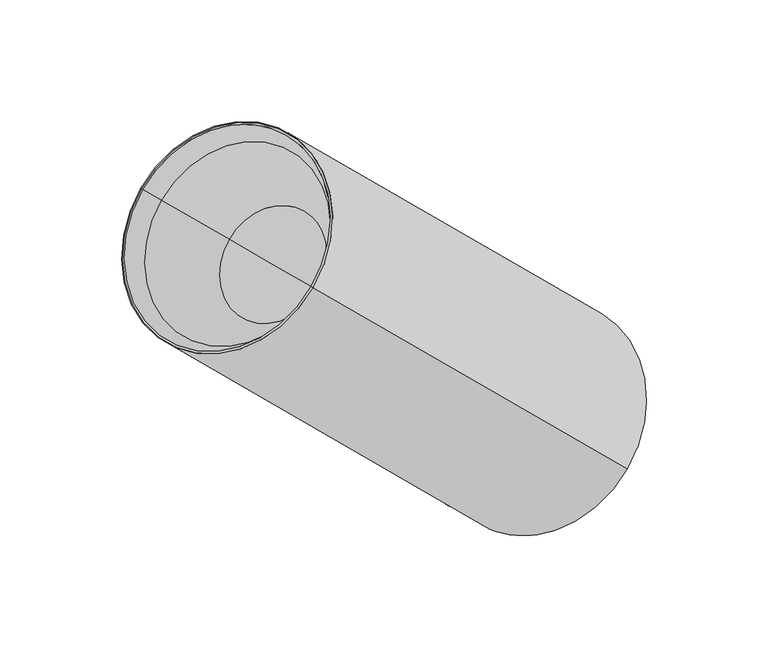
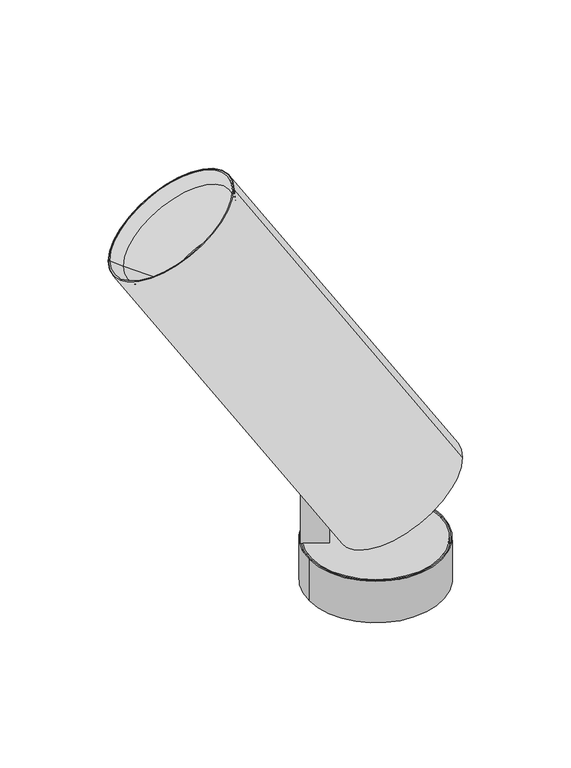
"""IFC4 building model written with IfcOpenShell, lengths in millimetres: light fixture geometry, PIPES C S : 1700 21W-830 28°."""

from ifc_helpers import new_model, si_unit, point, frame, frame_2d, origin, origin_with_axes, origin_2d, place, context, project, spatial, polyline, circle_curve, trimmed, segment, composite_curve, outline, extrude, source, transform, mapped, element, save
from ifc_brep_helpers import plane_surface, cylinder_surface, revolved_surface, advanced_brep


def light_fixture_be3f1eb5(model_context):
    return source(origin(), model_context, "Body", "SolidModel", [
        advanced_brep(
        [(-37.0110008, 12.1307069, 92.7464369), (-17.1417302, 0.6591782, 59.9803551), (-29.4347784, 7.756573, 50.0410565), (-23.970729, 4.6019026, 41.030384), (-25.4088467, 5.4322002, 39.8676227), (-50.7421667, 20.0583993, 81.644377), (-29.0110008, 25.9871134, 92.7464369), (-42.7421667, 33.9148058, 81.644377), (-17.4088467, 19.2886066, 39.8676227), (-15.970729, 18.458309, 41.030384), (-21.4347784, 21.6129794, 50.0410565), (-9.1417302, 14.5155847, 59.9803551), (-13.1417302, 7.5873815, 59.9803551), (-47.1991304, 27.2504306, 81.2749081), (-80.0754212, 46.231566, 309.835329), (-151.0160692, 87.1891682, 252.4776854), (-142.7624072, 82.4239142, 247.8194807), (-79.1075037, 45.6727386, 299.2863811), (49.0748376, -28.3333707, 96.8557975), (47.6560247, -27.5142187, 95.7086446), (42.1919753, -24.3595483, 104.7193171), (8.1404642, -4.6998992, 77.1876482), (-77.6188669, 44.8132737, 263.8214878), (-114.410303, 66.0548192, 234.0745072), (-96.0145849, 55.4340465, 248.9479975)],
        [
            (0, 1),
            (1, 2),
            (2, 3),
            (3, 4),
            (4, 5),
            (5, 0),
            (6, 7),
            (7, 8),
            (8, 9),
            (9, 10),
            (10, 11),
            (11, 6),
            (0, 6),
            (11, 12),
            (12, 1),
            (5, 13, circle_curve(frame((-11.7288064, 6.7716295, 109.9537299), z_axis=(0.49673176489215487, -0.2867882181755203, -0.8191520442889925), x_axis=(-0.7094064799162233, 0.4095760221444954, -0.5735764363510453)), 50.0)),
            (13, 7, circle_curve(frame((-11.7288064, 6.7716295, 109.9537299), z_axis=(0.49673176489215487, -0.2867882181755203, -0.8191520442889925), x_axis=(-0.7094064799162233, 0.4095760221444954, -0.5735764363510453)), 50.0)),
            (14, 15, circle_curve(frame((-115.5457452, 66.7103671, 281.1565072), z_axis=(-0.49673176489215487, 0.2867882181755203, 0.8191520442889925), x_axis=(-0.7094064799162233, 0.4095760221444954, -0.5735764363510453)), 50.0)),
            (15, 16),
            (16, 17, circle_curve(frame((-110.9349554, 64.0483264, 273.5529309), z_axis=(0.49673176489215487, -0.2867882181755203, -0.8191520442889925), x_axis=(-0.7094064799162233, 0.4095760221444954, -0.5735764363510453)), 44.8649013)),
            (17, 14),
            (15, 14, circle_curve(frame((-115.5457452, 66.7103671, 281.1565072), z_axis=(-0.49673176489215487, 0.2867882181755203, 0.8191520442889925), x_axis=(-0.7094064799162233, 0.4095760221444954, -0.5735764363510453)), 50.0)),
            (17, 16, circle_curve(frame((-110.9349554, 64.0483264, 273.5529309), z_axis=(0.49673176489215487, -0.2867882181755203, -0.8191520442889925), x_axis=(-0.7094064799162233, 0.4095760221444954, -0.5735764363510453)), 44.8649013)),
            (14, 18),
            (18, 8, circle_curve(frame((13.6045136, -7.8545696, 68.1769757), z_axis=(-0.49673176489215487, 0.2867882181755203, 0.8191520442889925), x_axis=(-0.7094064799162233, 0.4095760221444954, -0.5735764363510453)), 50.0)),
            (13, 15),
            (4, 18, circle_curve(frame((13.6045136, -7.8545696, 68.1769757), z_axis=(-0.49673176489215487, 0.2867882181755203, 0.8191520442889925), x_axis=(-0.7094064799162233, 0.4095760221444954, -0.5735764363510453)), 50.0)),
            (18, 19),
            (19, 9, circle_curve(frame((13.6045136, -7.8545696, 68.1769757), z_axis=(-0.49673176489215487, 0.2867882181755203, 0.8191520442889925), x_axis=(-0.7094064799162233, 0.4095760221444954, -0.5735764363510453)), 48.0)),
            (3, 19, circle_curve(frame((13.6045136, -7.8545696, 68.1769757), z_axis=(-0.49673176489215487, 0.2867882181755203, 0.8191520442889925), x_axis=(-0.7094064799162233, 0.4095760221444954, -0.5735764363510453)), 48.0)),
            (19, 20),
            (20, 10, circle_curve(frame((8.1404642, -4.6998992, 77.1876482), z_axis=(-0.49673176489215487, 0.2867882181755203, 0.8191520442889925), x_axis=(-0.7094064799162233, 0.4095760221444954, -0.5735764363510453)), 48.0)),
            (2, 20, circle_curve(frame((8.1404642, -4.6998992, 77.1876482), z_axis=(-0.49673176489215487, 0.2867882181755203, 0.8191520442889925), x_axis=(-0.7094064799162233, 0.4095760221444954, -0.5735764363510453)), 48.0)),
            (20, 21),
            (21, 12),
            (22, 23, circle_curve(frame((-96.0145849, 55.4340465, 248.9479975), z_axis=(-0.49673176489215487, 0.2867882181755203, 0.8191520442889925), x_axis=(-0.7094064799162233, 0.4095760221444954, -0.5735764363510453)), 25.931139)),
            (23, 24),
            (24, 22),
            (23, 22, circle_curve(frame((-96.0145849, 55.4340465, 248.9479975), z_axis=(-0.49673176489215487, 0.2867882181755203, 0.8191520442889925), x_axis=(-0.7094064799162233, 0.4095760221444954, -0.5735764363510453)), 25.931139)),
            (16, 23),
            (22, 17),
        ],
        [
            plane_surface(frame((-37.0110008, 12.1307069, 92.7464369), z_axis=(0.49999999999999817, 0.8660254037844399, 0.0), x_axis=(-0.496731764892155, 0.2867882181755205, 0.8191520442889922))),
            plane_surface(frame((-29.0110008, 25.9871134, 92.7464369), z_axis=(-0.49999999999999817, -0.8660254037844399, 0.0), x_axis=(0.496731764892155, -0.2867882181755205, -0.8191520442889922))),
            plane_surface(frame((-29.0110008, 25.9871134, 92.7464369), z_axis=(-0.7094064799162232, 0.4095760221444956, -0.5735764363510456), x_axis=(-0.4999999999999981, -0.8660254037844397, 0.0))),
            plane_surface(frame((-46.7461628, 36.226514, 78.4070259), z_axis=(0.49673176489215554, -0.28678821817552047, -0.8191520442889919), x_axis=(-0.49999999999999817, -0.8660254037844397, 0.0))),
            revolved_surface(polyline([(-142.7624072, 82.4239142, 247.8194807), (-151.0160692, 87.1891682, 252.4776854)]), (16.3128845, -9.4182482, 63.7106467), (0.49673176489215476, -0.28678821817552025, -0.8191520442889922)),
            cylinder_surface(frame((16.3128845, -9.4182482, 63.7106467), z_axis=(0.49673176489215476, -0.28678821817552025, -0.8191520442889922), x_axis=(-0.7094064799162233, 0.4095760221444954, -0.5735764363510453)), 50.0),
            plane_surface(frame((13.6045136, -7.8545696, 68.1769757), z_axis=(0.4967317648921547, -0.2867882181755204, -0.8191520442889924), x_axis=(-0.7094064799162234, 0.40957602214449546, -0.5735764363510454))),
            revolved_surface(polyline([(-20.446997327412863, 11.805079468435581, 40.645306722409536), (-25.911046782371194, 14.959749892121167, 49.65597927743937)]), (16.3128845, -9.4182482, 63.7106467), (0.49673176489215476, -0.28678821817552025, -0.8191520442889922)),
            plane_surface(frame((8.1404642, -4.6998992, 77.1876482), z_axis=(0.4967317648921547, -0.2867882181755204, -0.8191520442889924), x_axis=(-0.7094064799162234, 0.40957602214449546, -0.5735764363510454))),
            plane_surface(frame((-96.0145849, 55.4340465, 248.9479975), z_axis=(-0.4967317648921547, 0.2867882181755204, 0.8191520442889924), x_axis=(-0.7094064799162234, 0.40957602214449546, -0.5735764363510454))),
            revolved_surface(polyline([(-114.410303, 66.0548192, 234.0745072), (-142.7624072, 82.4239142, 247.8194807)]), (16.3128845, -9.4182482, 63.7106467), (0.49673176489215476, -0.28678821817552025, -0.8191520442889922)),
        ],
        [
            (0, [[1, 2, 3, 4, 5, 6]]),
            (1, [[7, 8, 9, 10, 11, 12]]),
            (2, [[13, -12, 14, 15, -1]]),
            (3, [[-13, -6, 16, 17, -7]]),
            (4, [[18, 19, 20, 21]]),
            (4, [[-19, 22, -21, 23]]),
            (5, [[-18, 24, 25, -8, -17, 26]]),
            (5, [[-22, -26, -16, -5, 27, -24]]),
            (6, [[28, 29, -9, -25]]),
            (6, [[-28, -27, -4, 30]]),
            (7, [[31, 32, -10, -29]]),
            (7, [[-31, -30, -3, 33]]),
            (8, [[34, 35, -14, -11, -32]]),
            (8, [[-34, -33, -2, -15, -35]]),
            (9, [[36, 37, 38]]),
            (9, [[-37, 39, -38]]),
            (10, [[-20, 40, -36, 41]]),
            (10, [[-23, -41, -39, -40]]),
        ],
    ),
        advanced_brep(
        [(-12.6711443, -1.9219157, 52.6079867), (-11.6776808, -2.4954922, 50.9696826), (-22.5299748, 3.7700827, 42.1952771), (-23.5234383, 4.3436591, 43.8335812), (-3.6776808, 11.3609143, 50.9696826), (-4.6711443, 11.9344907, 52.6079867), (-15.5234383, 18.2000656, 43.8335812), (-14.5299748, 17.6264892, 42.1952771), (-8.6711443, 5.0062875, 52.6079867), (-7.6776808, 4.4327111, 50.9696826), (12.8491843, -7.41848, 70.0078184), (45.7155071, -26.3938604, 96.5812271), (46.7089707, -26.9674368, 94.942923), (13.8426478, -7.9920564, 68.3695143)],
        [
            (0, 1),
            (1, 2),
            (2, 3),
            (3, 0),
            (4, 5),
            (5, 6),
            (6, 7),
            (7, 4),
            (0, 8),
            (8, 5),
            (4, 9),
            (9, 1),
            (10, 11),
            (11, 6, circle_curve(frame((12.8491843, -7.41848, 70.0078184), z_axis=(-0.49673176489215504, 0.2867882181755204, 0.8191520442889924), x_axis=(-0.7094064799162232, 0.40957602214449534, -0.5735764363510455)), 46.3293243)),
            (8, 10),
            (3, 11, circle_curve(frame((12.8491843, -7.41848, 70.0078184), z_axis=(-0.49673176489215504, 0.2867882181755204, 0.8191520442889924), x_axis=(-0.7094064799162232, 0.40957602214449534, -0.5735764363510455)), 46.3293243)),
            (11, 12),
            (12, 7, circle_curve(frame((13.8426478, -7.9920564, 68.3695143), z_axis=(-0.49673176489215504, 0.2867882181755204, 0.8191520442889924), x_axis=(-0.7094064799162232, 0.40957602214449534, -0.5735764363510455)), 46.3293243)),
            (2, 12, circle_curve(frame((13.8426478, -7.9920564, 68.3695143), z_axis=(-0.49673176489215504, 0.2867882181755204, 0.8191520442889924), x_axis=(-0.7094064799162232, 0.40957602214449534, -0.5735764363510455)), 46.3293243)),
            (12, 13),
            (13, 9),
        ],
        [
            plane_surface(frame((-37.0110008, 12.1307069, 92.7464369), z_axis=(0.49999999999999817, 0.8660254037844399, 0.0), x_axis=(-0.496731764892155, 0.2867882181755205, 0.8191520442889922))),
            plane_surface(frame((-29.0110008, 25.9871134, 92.7464369), z_axis=(-0.49999999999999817, -0.8660254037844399, 0.0), x_axis=(0.496731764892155, -0.2867882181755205, -0.8191520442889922))),
            plane_surface(frame((-29.0110008, 25.9871134, 92.7464369), z_axis=(-0.7094064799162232, 0.4095760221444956, -0.5735764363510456), x_axis=(-0.4999999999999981, -0.8660254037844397, 0.0))),
            plane_surface(frame((12.8491843, -7.41848, 70.0078184), z_axis=(-0.4967317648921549, 0.2867882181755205, 0.8191520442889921), x_axis=(-0.7094064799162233, 0.4095760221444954, -0.5735764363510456))),
            cylinder_surface(frame((16.5510186, -9.5557351, 63.9031853), z_axis=(0.4967317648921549, -0.28678821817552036, -0.8191520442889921), x_axis=(-0.7094064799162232, 0.40957602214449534, -0.5735764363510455)), 46.3293243),
            plane_surface(frame((13.8426478, -7.9920564, 68.3695143), z_axis=(0.4967317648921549, -0.2867882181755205, -0.8191520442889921), x_axis=(-0.7094064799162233, 0.4095760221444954, -0.5735764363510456))),
        ],
        [
            (0, [[1, 2, 3, 4]]),
            (1, [[5, 6, 7, 8]]),
            (2, [[-1, 9, 10, -5, 11, 12]]),
            (3, [[13, 14, -6, -10, 15]]),
            (3, [[-13, -15, -9, -4, 16]]),
            (4, [[17, 18, -7, -14]]),
            (4, [[-17, -16, -3, 19]]),
            (5, [[20, 21, -11, -8, -18]]),
            (5, [[-20, -19, -2, -12, -21]]),
        ],
    ),
        advanced_brep(
        [(-80.0754212, 46.231566, 309.835329), (-151.0160692, 87.1891682, 252.4776854), (-150.2053418, 86.7210945, 253.1331828), (-80.8861487, 46.6996397, 309.1798315), (-78.5070091, 45.3260428, 264.3241727), (-114.5156243, 66.1156265, 235.2101263), (-96.5113167, 55.7208347, 249.7671495), (-79.9713159, 46.1714607, 299.2094326), (-142.4043455, 82.2171872, 248.7304538), (-79.1075037, 45.6727386, 299.2863811), (-142.7624072, 82.4239142, 247.8194807), (-77.6188669, 44.8132737, 263.8214878), (-114.410303, 66.0548192, 234.0745072), (-96.0145849, 55.4340465, 248.9479975)],
        [
            (0, 1, circle_curve(frame((-115.5457452, 66.7103671, 281.1565072), z_axis=(-0.4967317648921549, 0.28678821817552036, 0.8191520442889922), x_axis=(-0.7094064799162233, 0.4095760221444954, -0.5735764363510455)), 50.0)),
            (1, 2),
            (2, 3, circle_curve(frame((-115.5457452, 66.7103671, 281.1565072), z_axis=(0.4967317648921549, -0.28678821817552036, -0.8191520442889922), x_axis=(-0.7094064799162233, 0.4095760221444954, -0.5735764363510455)), 48.857175)),
            (3, 0),
            (1, 0, circle_curve(frame((-115.5457452, 66.7103671, 281.1565072), z_axis=(-0.4967317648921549, 0.28678821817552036, 0.8191520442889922), x_axis=(-0.7094064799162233, 0.4095760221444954, -0.5735764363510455)), 50.0)),
            (3, 2, circle_curve(frame((-115.5457452, 66.7103671, 281.1565072), z_axis=(0.4967317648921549, -0.28678821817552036, -0.8191520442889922), x_axis=(-0.7094064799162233, 0.4095760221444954, -0.5735764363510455)), 48.857175)),
            (4, 5, circle_curve(frame((-96.5113167, 55.7208347, 249.7671495), z_axis=(-0.4967317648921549, 0.28678821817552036, 0.8191520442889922), x_axis=(-0.7094064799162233, 0.4095760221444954, -0.5735764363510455)), 25.3793955)),
            (5, 6),
            (6, 4),
            (5, 4, circle_curve(frame((-96.5113167, 55.7208347, 249.7671495), z_axis=(-0.4967317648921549, 0.28678821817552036, 0.8191520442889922), x_axis=(-0.7094064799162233, 0.4095760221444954, -0.5735764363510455)), 25.3793955)),
            (7, 8, circle_curve(frame((-111.1878307, 64.194324, 273.9699432), z_axis=(-0.4967317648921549, 0.28678821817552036, 0.8191520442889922), x_axis=(-0.7094064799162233, 0.4095760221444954, -0.5735764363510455)), 44.0037069)),
            (8, 5),
            (4, 7),
            (8, 7, circle_curve(frame((-111.1878307, 64.194324, 273.9699432), z_axis=(-0.4967317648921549, 0.28678821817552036, 0.8191520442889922), x_axis=(-0.7094064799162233, 0.4095760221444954, -0.5735764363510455)), 44.0037069)),
            (9, 10, circle_curve(frame((-110.9349554, 64.0483264, 273.5529309), z_axis=(-0.4967317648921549, 0.28678821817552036, 0.8191520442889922), x_axis=(-0.7094064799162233, 0.4095760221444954, -0.5735764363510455)), 44.8649013)),
            (10, 1),
            (0, 9),
            (10, 9, circle_curve(frame((-110.9349554, 64.0483264, 273.5529309), z_axis=(-0.4967317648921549, 0.28678821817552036, 0.8191520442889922), x_axis=(-0.7094064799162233, 0.4095760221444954, -0.5735764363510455)), 44.8649013)),
            (11, 12, circle_curve(frame((-96.0145849, 55.4340465, 248.9479975), z_axis=(-0.4967317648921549, 0.28678821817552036, 0.8191520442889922), x_axis=(-0.7094064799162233, 0.4095760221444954, -0.5735764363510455)), 25.931139)),
            (12, 10),
            (9, 11),
            (12, 11, circle_curve(frame((-96.0145849, 55.4340465, 248.9479975), z_axis=(-0.4967317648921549, 0.28678821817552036, 0.8191520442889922), x_axis=(-0.7094064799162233, 0.4095760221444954, -0.5735764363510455)), 25.931139)),
            (13, 12),
            (11, 13),
            (2, 8),
            (7, 3),
        ],
        [
            plane_surface(frame((-115.5457452, 66.7103671, 281.1565072), z_axis=(-0.4967317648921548, 0.28678821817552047, 0.8191520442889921), x_axis=(-0.7094064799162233, 0.4095760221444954, -0.5735764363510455))),
            plane_surface(frame((-96.5113167, 55.7208347, 249.7671495), z_axis=(-0.4967317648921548, 0.28678821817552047, 0.8191520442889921), x_axis=(-0.7094064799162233, 0.4095760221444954, -0.5735764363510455))),
            revolved_surface(polyline([(-114.5156243, 66.1156265, 235.2101263), (-142.4043455, 82.2171872, 248.7304538)]), (16.7171469, -9.6516493, 63.0439842), (0.4967317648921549, -0.28678821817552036, -0.8191520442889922)),
            revolved_surface(polyline([(-151.0160692, 87.1891682, 252.4776854), (-142.7624072, 82.4239142, 247.8194807)]), (16.7171469, -9.6516493, 63.0439842), (0.4967317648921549, -0.28678821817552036, -0.8191520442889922)),
            revolved_surface(polyline([(-142.7624072, 82.4239142, 247.8194807), (-114.410303, 66.0548192, 234.0745072)]), (16.7171469, -9.6516493, 63.0439842), (0.4967317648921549, -0.28678821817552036, -0.8191520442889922)),
            plane_surface(frame((-96.0145849, 55.4340465, 248.9479975), z_axis=(0.4967317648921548, -0.28678821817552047, -0.8191520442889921), x_axis=(-0.7094064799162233, 0.4095760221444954, -0.5735764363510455))),
            revolved_surface(polyline([(-142.4043455, 82.2171872, 248.7304538), (-150.2053418, 86.7210945, 253.1331828)]), (16.7171469, -9.6516493, 63.0439842), (0.4967317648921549, -0.28678821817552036, -0.8191520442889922)),
        ],
        [
            (0, [[1, 2, 3, 4]]),
            (0, [[5, -4, 6, -2]]),
            (1, [[7, 8, 9]]),
            (1, [[10, -9, -8]]),
            (2, [[11, 12, -7, 13]]),
            (2, [[14, -13, -10, -12]]),
            (3, [[15, 16, -1, 17]]),
            (3, [[18, -17, -5, -16]]),
            (4, [[19, 20, -15, 21]]),
            (4, [[22, -21, -18, -20]]),
            (5, [[23, -19, 24]]),
            (5, [[-24, -22, -23]]),
            (6, [[-3, 25, -11, 26]]),
            (6, [[-6, -26, -14, -25]]),
        ],
    ),
        extrude(outline(composite_curve([segment(trimmed(circle_curve(origin_2d(), 48.0), [point((24.0, 41.5692194))], [point((-24.0, -41.5692194))], False, "CARTESIAN"), True, "CONTINUOUS"), segment(trimmed(circle_curve(origin_2d(), 48.0), [point((-24.0, -41.5692194))], [point((24.0, 41.5692194))], False, "CARTESIAN"), True, "CONTINUOUS")], self_intersect=False)), origin_with_axes(), (0.0, 0.0, 1.0), 33.0),
        extrude(outline(composite_curve([segment(trimmed(circle_curve(frame_2d((0.0, -8.5499681)), 8.5499681), [point((-0.2983896, -17.0947278))], [point((-8.4667604, -9.7398936))], False, "CARTESIAN"), True, "CONTINUOUS"), segment(polyline([(-8.4667604, -9.7398936), (-9.7509831, -0.6021744), (-7.5438399, -0.6021744), (-7.5438399, 1.8978256), (46.2490169, 1.8978256), (46.2490169, -17.0947278), (-0.2983896, -17.0947278)]), True, "CONTINUOUS")], self_intersect=False)), frame((-44.2916796, 17.4889094, 79.2490169), z_axis=(0.49999999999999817, 0.8660254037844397, 0.0), x_axis=(0.0, 0.0, -1.0)), (0.0, 0.0, 1.0), 14.0),
        extrude(outline(composite_curve([segment(trimmed(circle_curve(origin_2d(), 50.0), [point((-50.0, 0.0))], [point((50.0, 0.0))], False, "CARTESIAN"), True, "CONTINUOUS"), segment(trimmed(circle_curve(origin_2d(), 50.0), [point((50.0, 0.0))], [point((-50.0, 0.0))], False, "CARTESIAN"), True, "CONTINUOUS")], self_intersect=False), holes=[composite_curve([segment(trimmed(circle_curve(origin_2d(), 49.0), [point((-49.0, 0.0))], [point((49.0, 0.0))], True, "CARTESIAN"), True, "CONTINUOUS"), segment(trimmed(circle_curve(origin_2d(), 49.0), [point((49.0, 0.0))], [point((-49.0, 0.0))], True, "CARTESIAN"), True, "CONTINUOUS")], self_intersect=False)]), origin_with_axes(), (0.0, 0.0, 1.0), 33.0),
    ])


if __name__ == "__main__":
    model = new_model("IFC4")
    model_context = context("Model", 3, world=origin())
    ifc_project = project(units=[si_unit("LENGTHUNIT", "METRE", prefix="MILLI")], contexts=[model_context])
    site = spatial("IfcSite", under=ifc_project)
    building = spatial("IfcBuilding", under=site)
    placement = place(None, origin())
    light_fixture_shape = light_fixture_be3f1eb5(model_context)
    element("IfcLightFixture", 1, ObjectType="PIPES C S : 1700 21W-830 28°", at=placement, inside=building, context=model_context, shape_type="MappedRepresentation", body=[
        mapped(light_fixture_shape, transform((0.0, 0.0, 0.0), x_axis=(1.0, 0.0, 0.0), y_axis=(0.0, 1.0, 0.0), z_axis=(0.0, 0.0, 1.0))),
    ])
    save(model, "model.ifc")
